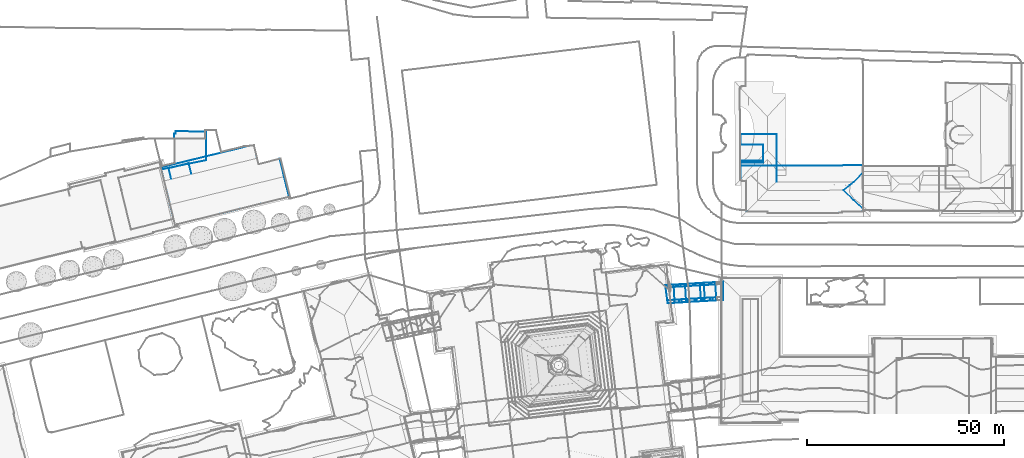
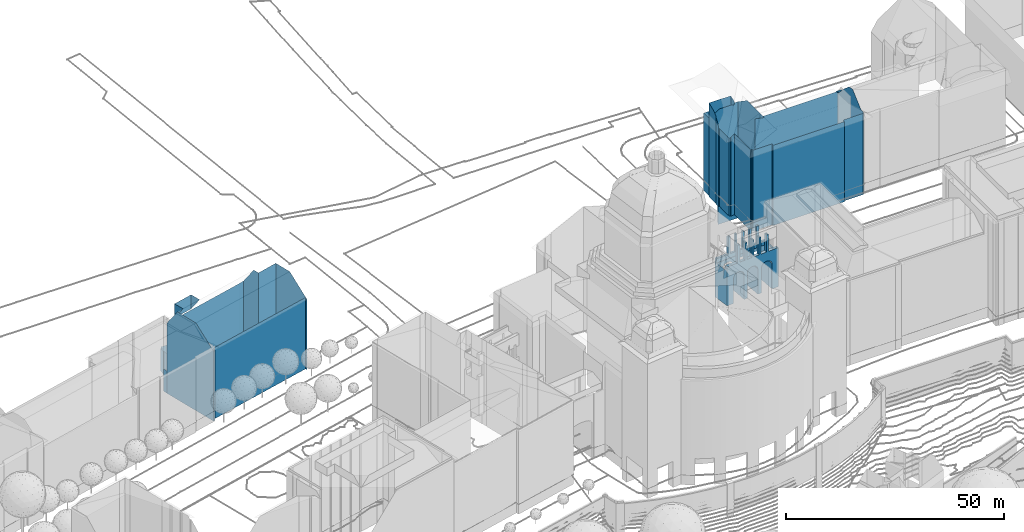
# Not in any storey, part 62 of 477: 3 walls.
"""IFC4 building model written with IfcOpenShell, lengths in metres."""

from ifc_helpers import new_model, si_unit, frame, origin_with_axes, place, context, subcontext, project, spatial, polygons, element, save


model = new_model("IFC4")

# Units and contexts
model_context = context("Model", 3, precision=1e-05, world=origin_with_axes())
body_context = subcontext(model_context, "Body", "Model", "MODEL_VIEW")
ifc_project = project(units=[si_unit("AREAUNIT", "SQUARE_METRE"), si_unit("LENGTHUNIT", "METRE")], contexts=[model_context])

# Sites, building
site_1_placement = place(None, origin_with_axes())
site_1 = spatial("IfcSite", under=ifc_project, at=site_1_placement, Name="Topoexport Site")
site_2_placement = place(site_1_placement, origin_with_axes())
site_2 = spatial("IfcSite", under=site_1, at=site_2_placement, Name="TPX_BUILDINGS")
building_1_placement = place(site_2_placement, frame((211.8297320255, 101.9383160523, 526.7541), z_axis=(0.0, 0.0, 1.0), x_axis=(1.0, 0.0, 0.0)))
building_1 = spatial("IfcBuilding", under=site_2, at=building_1_placement, Name="Building 18", CompositionType="ELEMENT")

# Wall
wall_1_placement = place(None, frame((211.8297320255, 101.9383160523, 526.7541), z_axis=(0.0, 0.0, 1.0), x_axis=(1.0, 0.0, 0.0)))
element("IfcWall", 1, at=wall_1_placement, inside=building_1, Name="Wall 25", context=body_context, shape_type="Tessellation", body=[
    polygons([(353.0720000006, 301.4774999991, 24.3019), (353.0250000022, 302.2637000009, 29.1525), (353.0720000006, 301.4774999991, 29.1525), (353.5730000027, 302.2969000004, 24.3019), (353.620000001, 301.5106999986, 29.1525), (353.5730000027, 302.2969000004, 29.1525), (358.9739999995, 301.8300999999, 24.3019), (358.9270000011, 302.6152000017, 24.3019), (358.9739999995, 301.8300999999, 29.1525), (359.506000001, 302.6493999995, 24.3019), (359.5529999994, 301.8641999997, 24.3019), (359.506000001, 302.6493999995, 29.1525), (355.0040000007, 301.5936999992, 24.3019), (354.9570000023, 302.378899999, 29.1525), (355.0040000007, 301.5936999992, 29.1525), (355.5089999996, 302.4111000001, 24.3019), (355.5560000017, 301.6259999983, 29.1525), (355.5089999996, 302.4111000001, 29.1525), (351.1050000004, 301.3603000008, 24.3019), (351.0580000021, 302.1464999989, 24.3019), (351.1050000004, 301.3603000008, 29.1525), (351.7259999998, 302.1865000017, 24.3019), (351.7730000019, 301.4004000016, 29.1525), (351.7259999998, 302.1865000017, 29.1525), (356.9470000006, 301.7089999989, 24.3019), (356.9000000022, 302.4941000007, 29.1525), (356.9470000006, 301.7089999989, 29.1525), (357.4279999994, 302.5263999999, 24.3019), (357.4750000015, 301.7402000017, 24.3019), (357.4279999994, 302.5263999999, 29.1525), (352.8320000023, 305.5126999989, 24.3019), (352.7970000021, 306.0907999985, 24.3019), (352.8320000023, 305.5126999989, 29.1525), (353.3450000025, 306.1229999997, 24.3019), (353.3800000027, 305.5458999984, 29.1525), (353.3450000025, 306.1240000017, 29.1525), (350.8650000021, 305.3955000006, 24.3019), (350.8300000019, 305.9745999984, 24.3019), (350.8650000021, 305.3955000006, 29.1525), (351.4979999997, 306.0146000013, 24.3019), (351.5329999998, 305.4345999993, 24.3019), (351.4979999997, 306.0146000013, 29.1525), (358.7340000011, 305.8641999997, 24.3019), (358.699000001, 306.4433000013, 24.3019), (358.7340000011, 305.8641999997, 29.1525), (359.2770000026, 306.4785000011, 24.3019), (359.3120000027, 305.8984000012, 24.3019), (359.2770000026, 306.4785000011, 29.1525), (356.7070000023, 305.7430999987, 24.3019), (356.6720000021, 306.3222999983, 24.3019), (356.7070000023, 305.7430999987, 29.1525), (357.200000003, 306.3535000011, 24.3019), (357.2349999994, 305.7754000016, 29.1525), (357.200000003, 306.3544999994, 29.1525), (354.7640000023, 305.6268999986, 24.3019), (354.7290000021, 306.2060000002, 29.1525), (354.7640000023, 305.6268999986, 29.1525), (355.2809999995, 306.2391999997, 24.3019), (355.3159999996, 305.6601000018, 24.3019), (355.2809999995, 306.2391999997, 29.1525), (351.0580000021, 302.1464999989, 29.1525), (348.0720000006, 301.9686999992, 23.1101), (348.0720000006, 301.9686999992, 24.3019), (353.0250000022, 302.2637000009, 24.3019), (354.9570000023, 302.378899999, 24.3019), (362.2330000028, 302.8125, 23.11), (358.9270000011, 302.6152000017, 29.1525), (356.9000000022, 302.4941000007, 24.3019), (362.2330000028, 302.8125, 24.3019), (359.5529999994, 301.8641999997, 29.1525), (362.2360000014, 302.0243999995, 23.11), (359.9860000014, 301.8876999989, 21.4602), (362.2360000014, 302.0243999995, 24.3019), (358.7550000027, 301.8154000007, 21.7082), (359.4020000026, 301.8535000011, 21.7082), (357.4750000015, 301.7402000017, 29.1525), (358.1720000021, 301.7811999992, 21.4602), (355.5560000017, 301.6259999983, 24.3019), (355.495000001, 301.6240000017, 21.7082), (360.3890000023, 301.9111000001, 21.0142), (360.5340000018, 301.9228000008, 13.366), (360.5340000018, 301.9208999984, 20.4573), (362.2360000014, 302.0243999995, 13.366), (357.768000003, 301.7578000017, 21.0142), (356.0789999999, 301.6581999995, 21.4602), (356.4820000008, 301.682599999, 21.0142), (356.6270000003, 301.6904000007, 20.4573), (356.6270000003, 301.6893999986, 13.366), (357.6240000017, 301.7490000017, 20.4573), (357.6240000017, 301.7490000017, 13.366), (353.620000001, 301.5106999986, 24.3019), (354.8480000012, 301.5859000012, 21.7082), (354.2650000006, 301.5527000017, 21.4602), (351.7730000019, 301.4004000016, 24.3019), (351.7349999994, 301.4032999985, 21.7082), (351.0879999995, 301.3652000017, 21.7082), (348.1730000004, 301.1854999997, 23.1101), (348.1730000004, 301.1854999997, 24.3019), (350.5040000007, 301.3310000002, 21.4602), (352.3200000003, 301.4375, 21.4602), (352.7239999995, 301.4609000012, 21.0143), (353.8610000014, 301.5282999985, 21.0142), (352.8670000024, 301.4697000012, 20.4573), (352.8680000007, 301.4657999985, 13.366), (353.7170000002, 301.5194999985, 20.4573), (353.7170000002, 301.5166000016, 13.366), (349.9580000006, 301.2910000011, 13.366), (348.1730000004, 301.1854999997, 13.366), (349.9570000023, 301.2998000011, 20.4573), (350.1009999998, 301.307599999, 21.0143), (362.2200000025, 306.6532999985, 24.3019), (362.2200000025, 306.6543000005, 23.11), (362.2220000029, 306.0722000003, 23.11), (362.2220000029, 306.0722000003, 24.3019), (362.2200000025, 306.6543000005, 13.366), (362.2330000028, 302.8125, 13.366), (348.0720000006, 301.9668000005, 13.366), (347.6540000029, 305.2030999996, 23.1101), (347.5789999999, 305.7793000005, 24.3019), (347.6530000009, 305.2030999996, 24.3019), (347.5789999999, 305.7802999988, 23.1101), (347.5789999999, 305.7802999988, 13.366), (359.3120000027, 305.8984000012, 29.1525), (357.2349999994, 305.7754000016, 24.3019), (355.3159999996, 305.6601000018, 29.1525), (353.3800000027, 305.5458999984, 24.3019), (351.5329999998, 305.4345999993, 29.1525), (350.8300000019, 305.9745999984, 29.1525), (350.8139999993, 305.9726000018, 21.7082), (350.2300000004, 305.9375, 21.4602), (349.8269999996, 305.9131000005, 21.0143), (351.4600000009, 306.0117000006, 21.7082), (352.7970000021, 306.0918000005, 29.1525), (353.5850000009, 306.1387000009, 21.0143), (355.2200000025, 306.2353000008, 21.7082), (354.7290000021, 306.2060000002, 24.3019), (354.5720000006, 306.1972000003, 21.7082), (353.9890000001, 306.1620999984, 21.4602), (352.0439999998, 306.0469000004, 21.4602), (349.6830000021, 305.9061999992, 13.366), (349.6830000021, 305.9043000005, 20.4573), (352.4480000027, 306.0703000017, 21.0143), (352.5920000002, 306.0780999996, 20.4573), (353.4409999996, 306.1308000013, 13.366), (353.4409999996, 306.129900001, 20.4573), (356.6720000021, 306.3222999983, 29.1525), (355.8040000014, 306.2705000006, 21.4602), (357.4920000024, 306.371100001, 21.0143), (358.699000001, 306.4433000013, 29.1525), (357.8960000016, 306.3955000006, 21.4602), (359.1270000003, 306.4697000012, 21.7082), (358.4790000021, 306.4305999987, 21.7082), (360.1140000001, 306.5282999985, 21.0143), (356.2060000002, 306.2939000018, 21.0143), (356.3509999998, 306.3037, 20.4573), (356.3509999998, 306.3046999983, 13.366), (357.3480000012, 306.3632999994, 20.4573), (359.7110000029, 306.504900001, 21.4602), (360.2589999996, 306.5370999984, 20.4573), (360.2589999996, 306.5370999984, 13.366), (352.5920000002, 306.0791000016, 13.366), (357.3480000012, 306.3632999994, 13.366)], [[[3, 2, 1]], [[6, 5, 4]], [[9, 8, 7]], [[12, 11, 10]], [[15, 14, 13]], [[18, 17, 16]], [[21, 20, 19]], [[24, 23, 22]], [[27, 26, 25]], [[30, 29, 28]], [[33, 32, 31]], [[36, 35, 34]], [[39, 38, 37]], [[42, 41, 40]], [[45, 44, 43]], [[48, 47, 46]], [[51, 50, 49]], [[54, 53, 52]], [[57, 56, 55]], [[60, 59, 58]], [[24, 22, 61]], [[6, 4, 2]], [[62, 20, 22]], [[20, 62, 63]], [[62, 22, 64]], [[64, 4, 62]], [[4, 65, 62]], [[62, 65, 66]], [[18, 65, 14]], [[30, 28, 26]], [[12, 10, 67]], [[68, 28, 66]], [[28, 8, 66]], [[10, 69, 66]], [[10, 66, 8]], [[68, 66, 16]], [[9, 7, 70]], [[72, 71, 11]], [[11, 71, 73]], [[75, 7, 74]], [[7, 75, 11]], [[72, 11, 75]], [[27, 29, 76]], [[77, 74, 29]], [[74, 7, 29]], [[77, 29, 25]], [[79, 25, 78]], [[13, 79, 78]], [[72, 80, 71]], [[83, 82, 81]], [[82, 83, 71]], [[77, 85, 84]], [[80, 82, 71]], [[87, 84, 86]], [[85, 77, 25]], [[90, 89, 88]], [[87, 88, 89]], [[84, 87, 89]], [[86, 84, 85]], [[79, 85, 25]], [[78, 17, 13]], [[3, 1, 5]], [[92, 13, 91]], [[92, 91, 93]], [[1, 93, 91]], [[94, 23, 19]], [[96, 95, 19]], [[19, 95, 94]], [[98, 97, 19]], [[99, 19, 97]], [[94, 95, 1]], [[100, 1, 95]], [[102, 100, 101]], [[100, 102, 93]], [[102, 101, 103]], [[106, 105, 104]], [[103, 104, 105]], [[105, 102, 103]], [[100, 93, 1]], [[99, 96, 19]], [[109, 108, 107]], [[108, 109, 97]], [[110, 97, 109]], [[99, 97, 110]], [[113, 112, 111]], [[113, 111, 114]], [[115, 112, 113]], [[66, 115, 113]], [[66, 73, 71]], [[116, 66, 83]], [[98, 63, 62]], [[118, 117, 62]], [[98, 62, 97]], [[62, 108, 97]], [[108, 62, 117]], [[120, 119, 118]], [[118, 119, 121]], [[117, 121, 122]], [[121, 117, 118]], [[45, 43, 123]], [[51, 124, 53]], [[113, 47, 43]], [[47, 113, 114]], [[113, 43, 124]], [[124, 49, 113]], [[49, 59, 113]], [[113, 59, 55]], [[59, 125, 55]], [[33, 126, 35]], [[39, 41, 127]], [[126, 31, 118]], [[31, 41, 118]], [[37, 120, 118]], [[37, 118, 41]], [[126, 118, 55]], [[55, 118, 113]], [[42, 40, 128]], [[130, 38, 129]], [[119, 38, 131]], [[129, 38, 132]], [[131, 121, 119]], [[40, 132, 38]], [[36, 34, 133]], [[134, 32, 34]], [[137, 136, 135]], [[34, 136, 138]], [[139, 40, 32]], [[56, 60, 136]], [[136, 137, 138]], [[132, 40, 139]], [[122, 141, 140]], [[122, 121, 141]], [[121, 131, 141]], [[130, 131, 38]], [[32, 134, 142]], [[142, 139, 32]], [[142, 134, 143]], [[145, 144, 143]], [[143, 134, 145]], [[134, 34, 138]], [[54, 52, 146]], [[147, 135, 58]], [[135, 136, 58]], [[50, 147, 58]], [[52, 148, 50]], [[44, 149, 46]], [[52, 44, 150]], [[46, 151, 44]], [[44, 151, 152]], [[46, 111, 153]], [[112, 153, 111]], [[44, 152, 150]], [[50, 154, 147]], [[50, 148, 154]], [[154, 148, 155]], [[157, 156, 155]], [[155, 148, 157]], [[148, 52, 150]], [[158, 151, 46]], [[153, 112, 159]], [[115, 160, 159]], [[112, 115, 159]], [[158, 46, 153]], [[145, 105, 144]], [[156, 87, 155]], [[90, 157, 89]], [[82, 159, 81]], [[141, 109, 140]], [[161, 103, 143]], [[2, 64, 1]], [[5, 91, 4]], [[67, 8, 9]], [[70, 11, 12]], [[14, 65, 13]], [[17, 78, 16]], [[61, 20, 21]], [[23, 94, 22]], [[26, 68, 25]], [[76, 29, 30]], [[133, 32, 33]], [[35, 126, 34]], [[128, 38, 39]], [[127, 41, 42]], [[149, 44, 45]], [[123, 47, 48]], [[146, 50, 51]], [[53, 124, 52]], [[56, 136, 55]], [[125, 59, 60]], [[22, 20, 61]], [[4, 64, 2]], [[65, 16, 66]], [[16, 65, 18]], [[28, 68, 26]], [[10, 8, 67]], [[7, 11, 70]], [[25, 29, 27]], [[92, 79, 13]], [[17, 15, 13]], [[1, 91, 5]], [[23, 21, 19]], [[116, 115, 66]], [[69, 73, 66]], [[66, 71, 83]], [[43, 47, 123]], [[49, 124, 51]], [[125, 57, 55]], [[31, 126, 33]], [[37, 41, 39]], [[40, 38, 128]], [[34, 32, 133]], [[60, 58, 136]], [[144, 161, 143]], [[52, 50, 146]], [[149, 48, 46]], [[162, 156, 157]], [[105, 106, 144]], [[88, 87, 156]], [[162, 157, 90]], [[159, 160, 81]], [[109, 107, 140]], [[104, 103, 161]]]),
])

# Building
building_2_placement = place(site_2_placement, frame((578.3317320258, 440.0389160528, 564.4028), z_axis=(0.0, 0.0, 1.0), x_axis=(1.0, 0.0, 0.0)))
building_2 = spatial("IfcBuilding", under=site_2, at=building_2_placement, Name="Building 190", CompositionType="ELEMENT")

# Wall
wall_2_placement = place(None, frame((578.3317320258, 440.0389160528, 564.4028), z_axis=(0.0, 0.0, 1.0), x_axis=(1.0, 0.0, 0.0)))
element("IfcWall", 2, at=wall_2_placement, inside=building_2, Name="Wall 0", context=body_context, shape_type="Tessellation", body=[
    polygons([(9.313000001, -1.9541000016, -24.3907), (0.2300000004, -1.9776000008, -24.3907), (0.2300000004, -1.9776000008, -24.5197), (31.2880000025, -1.9004000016, -2.6996), (31.2880000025, -1.9004000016, -24.5195), (1.5350000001, -5.8672000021, -1.8078), (1.5350000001, -5.8672000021, -24.5197), (0.5650000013, -5.8819000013, -24.5197), (0.5650000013, -5.8819000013, -2.4758), (1.0380000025, -5.875, -2.1498), (1.5419999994, -11.4717000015, -1.8118), (1.5370000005, -7.7402999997, -1.8088), (1.5439999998, -13.3409000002, -24.5197), (1.6350999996, -13.3379000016, -24.5197), (1.5441000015, -13.3408000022, -1.8138), (1.6350000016, -13.3379000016, -1.7509), (1.7470000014, -13.4941999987, -24.5197), (0.3920000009, -5.8007999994, -2.5948), (0.3920000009, -5.8007999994, -24.5197), (0.2750000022, -5.7393000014, -24.5197), (0.5659999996, -5.8330000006, -24.5197), (0.5659999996, -5.8330000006, -2.4748), (31.1469999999, -13.6084000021, -24.5195), (31.1469999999, -13.5439999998, -1.7407), (31.1469999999, -13.5439999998, -24.5195), (31.3220000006, -13.5390999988, -13.1286), (31.3220000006, -13.5390999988, -18.8231), (31.3220000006, -13.5390999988, -24.5195), (1.9020000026, -13.5956999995, -24.5197), (1.813000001, -13.5371000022, -16.3465), (1.9020000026, -13.5956999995, -1.7269), (4.0240000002, -13.6856000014, -1.7919), (7.0190000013, -13.6787, -1.7929), (7.0190000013, -13.6787, -24.5197), (1.9020000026, -13.6904999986, -1.7919), (1.9020000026, -13.6904999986, -24.5197), (7.0540000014, -14.0254000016, -2.0318), (25.9930000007, -13.9677999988, -24.5197), (21.2580000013, -13.9825000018, -2.0268), (25.9930000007, -13.9677999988, -2.0249), (22.0890000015, -13.9805000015, -24.5197), (7.0540000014, -14.0254000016, -24.5197), (25.9990000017, -13.6114000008, -1.7789), (25.9990000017, -13.6114000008, -24.5197), (31.2930000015, -3.6904999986, -24.6435), (28.8880000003, -6.1064999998, -24.5195), (28.8890000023, -6.1055000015, -24.6435), (31.2930000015, -3.6904999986, -24.5195), (31.2930000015, -3.6904999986, -1.4657), (28.8890000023, -6.1055000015, 0.8711), (28.8890000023, -6.1055000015, 0.1951), (31.2930000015, -3.6904999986, -1.1777), (0.2170000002, 3.2938999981, -24.3907), (0.2100000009, 5.9569999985, -2.6997), (0.2170000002, 3.2938999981, -2.6997), (0.2100000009, 5.9569999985, -24.3907), (9.2939999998, 5.9794999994, -2.6997), (0.2390000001, -5.7080000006, -13.6227), (0.2390000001, -5.7080000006, -24.5197), (31.3210000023, -13.1493999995, -24.6435), (28.9000000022, -10.7422000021, -24.5195), (31.3210000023, -13.1493999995, -24.5195), (28.9000000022, -10.7422000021, -24.6435), (26.3839999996, -8.1865999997, -24.6437), (26.3839999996, -8.1865999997, -24.5197), (0.0, 0.0223999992, -6.1094), (0.0329999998, 0.0223999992, 0.019), (0.0, 0.0223999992, 0.019), (0.0, 0.0223999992, -12.2368), (0.0, 0.0225000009, -24.4917), (0.0980000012, 0.0234000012, -18.3642), (0.0980000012, 0.0234000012, -6.1084), (0.0980000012, 0.0234000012, -24.4917), (0.0020000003, -0.6777999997, -28.6853), (5.8859999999, -0.6631000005, -24.4917), (0.0020000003, -0.6777999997, -24.4917), (0.0879999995, 3.2938999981, -24.4917), (0.0879999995, 3.2938999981, 1.7858), (2.8819999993, 3.3007999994, -0.8639), (5.876000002, 3.307599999, -24.4917), (5.876000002, 3.307599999, -0.8639), (5.876000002, 3.307599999, 1.7858), (0.2300000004, -1.9776000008, -2.6977), (0.2390000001, -5.7080000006, -2.6998), (0.2280000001, -1.2353999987, -24.3907), (0.2280000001, -1.2353999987, -2.6967), (27.8539000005, -6.9649000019, 1.5997), (27.8440000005, -6.9737000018, 1.6008), (9.3040000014, 1.7811999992, -24.3907), (9.2939999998, 5.9794999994, -24.3907), (9.313000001, -1.9541000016, -2.6998), (9.3040000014, 1.7811999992, 0.195), (9.324000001, -6.1533000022, 0.195), (0.0040000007, -1.0947999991, -24.4917), (0.0040000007, -1.0947999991, -29.5932), (0.0, 0.0, 0.0), (0.0020000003, -0.6777999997, -0.8389), (0.0040000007, -1.0947999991, -1.7468), (0.0950000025, 0.9131000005, -24.4917), (0.0920000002, 2.0243999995, -24.4917), (0.0920000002, 2.0243999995, 1.3379), (0.0950000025, 0.9131000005, 0.7349), (0.0980000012, 0.0234000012, 0.019), (5.8790000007, 2.0390000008, 1.3379), (5.8800000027, 1.7723999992, 0.195), (5.881000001, 1.4510999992, 1.0189), (5.887000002, -1.2217000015, -24.3907), (5.876000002, 3.307599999, -24.3907), (5.887000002, -1.0811000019, -24.4917), (5.8859999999, -0.6631000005, -28.6853), (5.887000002, -1.0811000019, -29.5952), (31.3060000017, -8.0782000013, -24.6435), (31.3220000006, -13.5390999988, -7.4332), (31.3029999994, -6.9571000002, 1.6), (31.319000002, -12.4101999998, -1.4687), (31.3080000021, -8.6308999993, 1.9179), (31.3220000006, -13.5390999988, -1.7377), (31.3210000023, -13.1493999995, -1.4687), (0.0040000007, -1.2364000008, -2.6947), (0.0040000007, -1.2364000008, -24.4917), (1.7631999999, -13.5036999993, -1.6629), (1.7474000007, -13.4930999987, -1.6739), (5.887000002, -1.2217000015, -24.4917), (0.2750000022, -5.7393000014, -2.6748), (31.1469999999, -13.6084000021, -1.7847)], [[[3, 2, 1]], [[5, 1, 4]], [[1, 5, 3]], [[8, 7, 6]], [[10, 9, 8]], [[12, 7, 11]], [[6, 7, 12]], [[11, 7, 13]], [[16, 15, 14]], [[15, 13, 14]], [[16, 14, 17]], [[20, 19, 18]], [[22, 18, 21]], [[25, 24, 23]], [[27, 26, 24]], [[27, 24, 28]], [[31, 30, 29]], [[29, 30, 17]], [[34, 33, 32]], [[36, 32, 35]], [[33, 34, 37]], [[40, 39, 38]], [[39, 37, 38]], [[41, 38, 37]], [[37, 42, 41]], [[40, 38, 43]], [[43, 38, 44]], [[47, 46, 45]], [[48, 45, 46]], [[51, 50, 49]], [[52, 49, 50]], [[55, 54, 53]], [[54, 57, 56]], [[59, 20, 58]], [[22, 21, 9]], [[9, 21, 8]], [[35, 31, 36]], [[36, 31, 29]], [[62, 61, 60]], [[60, 61, 63]], [[63, 65, 64]], [[65, 63, 61]], [[68, 67, 66]], [[69, 66, 67]], [[70, 69, 67]], [[67, 72, 71]], [[67, 73, 70]], [[76, 75, 74]], [[78, 55, 77]], [[55, 78, 79]], [[77, 53, 80]], [[82, 81, 79]], [[82, 79, 78]], [[58, 84, 83]], [[59, 58, 2]], [[86, 85, 83]], [[2, 3, 59]], [[83, 2, 58]], [[88, 87, 51]], [[50, 51, 87]], [[64, 65, 46]], [[46, 47, 64]], [[89, 57, 1]], [[57, 89, 90]], [[57, 92, 91]], [[93, 91, 92]], [[57, 91, 1]], [[74, 94, 76]], [[76, 94, 69]], [[70, 76, 69]], [[94, 74, 95]], [[97, 96, 68]], [[97, 68, 66]], [[69, 98, 66]], [[66, 98, 97]], [[94, 98, 69]], [[73, 71, 99]], [[100, 99, 71]], [[77, 100, 71]], [[71, 72, 77]], [[72, 102, 101]], [[72, 101, 78]], [[72, 103, 102]], [[72, 78, 77]], [[82, 104, 81]], [[81, 104, 105]], [[105, 104, 106]], [[107, 75, 80]], [[80, 108, 107]], [[75, 107, 109]], [[110, 75, 109]], [[109, 111, 110]], [[112, 48, 27]], [[5, 26, 48]], [[45, 48, 112]], [[62, 60, 112]], [[27, 28, 62]], [[112, 27, 62]], [[113, 5, 4]], [[49, 52, 114]], [[116, 115, 49]], [[116, 49, 114]], [[115, 113, 4]], [[48, 26, 27]], [[115, 117, 113]], [[26, 5, 113]], [[117, 115, 118]], [[49, 115, 4]], [[98, 120, 119]], [[98, 94, 120]], [[109, 95, 111]], [[94, 95, 109]], [[122, 17, 121]], [[123, 107, 85]], [[85, 119, 120]], [[119, 85, 86]], [[85, 120, 123]], [[109, 107, 123]], [[1, 91, 4]], [[10, 8, 6]], [[13, 15, 11]], [[18, 124, 20]], [[18, 19, 21]], [[125, 43, 44]], [[23, 125, 44]], [[125, 23, 24]], [[117, 24, 113]], [[26, 113, 24]], [[24, 25, 28]], [[31, 121, 30]], [[121, 17, 30]], [[34, 32, 36]], [[42, 37, 34]], [[54, 56, 53]], [[57, 90, 56]], [[122, 16, 17]], [[84, 20, 124]], [[20, 84, 58]], [[67, 71, 73]], [[103, 72, 67]], [[75, 110, 74]], [[55, 53, 77]], [[53, 108, 80]], [[85, 2, 83]]]),
])

# Building
building_3_placement = place(site_2_placement, frame((431.242732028, 438.998816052, 539.6453), z_axis=(0.0, 0.0, 1.0), x_axis=(1.0, 0.0, 0.0)))
building_3 = spatial("IfcBuilding", under=site_2, at=building_3_placement, Name="Building 209", CompositionType="ELEMENT")

# Wall
wall_3_placement = place(None, frame((431.242732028, 438.998816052, 539.6453), z_axis=(0.0, 0.0, 1.0), x_axis=(1.0, 0.0, 0.0)))
element("IfcWall", 3, at=wall_3_placement, inside=building_3, Name="Wall 0", context=body_context, shape_type="Tessellation", body=[
    polygons([(2.068, -1.5975999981, 20.689), (2.068, -1.5975999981, 24.6626), (2.7369999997, -4.3387999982, 24.6876), (7.1779999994, -0.3495999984, 20.69), (7.8469999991, -3.0887999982, 24.6876), (7.1779999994, -0.3495999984, 24.6626), (24.9079999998, -0.5839999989, 0.132), (30.2819999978, 0.8027999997, 24.7096), (24.9079999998, -0.5839999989, 24.7096), (4.3189999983, -16.2899999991, 0.132), (4.2009999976, -15.8172999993, 20.153), (4.2009999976, -15.8172999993, 0.132), (18.3899999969, -12.3465999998, 20.153), (32.5539999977, -8.8827999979, 20.154), (32.5539999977, -8.8827999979, 0.1319), (32.686999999, -9.3535000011, 19.7351), (32.7599999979, -9.3348999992, 0.1319), (32.686999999, -9.3535000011, 0.1319), (32.7599999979, -9.3348999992, 19.7351), (3.8310000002, -16.4090999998, 19.7351), (4.3189999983, -16.2899999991, 19.7351), (3.8310000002, -16.4090999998, 0.132), (22.436999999, 4.0762000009, 0.132), (23.7479999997, 4.2061000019, 0.132), (22.436999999, 4.0762000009, 19.7351), (0.1199999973, -1.3817999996, 0.132), (0.2850000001, -1.3418000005, 6.2254), (0.1199999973, -1.3817999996, 19.7351), (11.5669999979, 1.4180000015, 6.2254), (0.2850000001, -1.3418000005, 0.132), (11.5669999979, 1.4180000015, 0.132), (11.2989999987, 8.0850000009, 0.0), (11.555999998, 8.0811000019, 6.2254), (11.2989999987, 8.0850000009, 6.2254), (11.2969999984, 7.629900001, 0.0), (11.2969999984, 7.629900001, 6.2254), (3.862999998, 7.8575000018, 0.0), (3.862999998, 7.8575000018, 6.2254), (3.8429999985, 7.2149000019, 0.0), (3.8429999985, 7.2149000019, 6.2254), (3.443, 7.2265999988, 0.0), (3.443, 7.2265999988, 6.2254), (3.3990000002, 5.9052999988, 0.0), (3.3990000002, 5.9052999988, 6.2254), (3.6289999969, 5.9063000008, 0.0), (3.6289999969, 5.9063000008, 6.2254), (3.5729999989, -0.254900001, 0.0), (3.5729999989, -0.254900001, 6.2254), (0.4780000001, -1.0146000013, 0.0), (0.4780000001, -1.0146000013, 6.2254), (0.2029999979, 0.0439999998, 0.0), (0.2029999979, 0.0439999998, 6.2254), (0.0, 0.0, 0.0), (0.0, 0.0, 6.2254), (0.3969999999, -1.8662, 0.132), (0.3969999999, -1.8662, 0.0), (11.5689999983, 0.4463, 0.0), (11.5689999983, 0.4463, 0.132), (11.555999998, 8.0811000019, 0.0), (31.3829999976, -3.6981999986, 0.1319), (31.3829999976, -3.6981999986, 24.7096), (24.5299999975, 0.9746000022, 0.132), (23.7479999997, 4.2061000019, 19.9981), (24.5299999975, 0.9746000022, 24.7096), (2.4399999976, -10.7762999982, 24.7096), (0.9609999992, -4.7890000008, 24.7096), (0.9609999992, -4.7890000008, 0.132), (2.4399999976, -10.7762999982, 0.132), (30.2819999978, 0.8027999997, 0.132)], [[[3, 2, 1]], [[6, 5, 4]], [[2, 4, 1]], [[9, 8, 7]], [[12, 11, 10]], [[15, 14, 13]], [[12, 15, 13]], [[13, 11, 12]], [[16, 14, 15]], [[19, 18, 17]], [[18, 19, 16]], [[22, 21, 20]], [[22, 10, 21]], [[25, 24, 23]], [[28, 27, 26]], [[27, 28, 29]], [[30, 26, 27]], [[29, 25, 23]], [[25, 29, 28]], [[23, 31, 29]], [[34, 33, 32]], [[36, 34, 35]], [[38, 36, 37]], [[40, 38, 39]], [[42, 40, 41]], [[44, 42, 43]], [[46, 44, 45]], [[48, 46, 47]], [[50, 48, 49]], [[52, 50, 51]], [[54, 52, 53]], [[56, 55, 30]], [[30, 54, 53]], [[54, 30, 27]], [[30, 53, 56]], [[58, 55, 57]], [[59, 33, 31]], [[31, 33, 29]], [[31, 58, 57]], [[31, 57, 59]], [[61, 60, 8]], [[60, 19, 17]], [[19, 60, 61]], [[63, 62, 24]], [[62, 63, 64]], [[9, 7, 64]], [[66, 28, 65]], [[20, 65, 28]], [[28, 67, 20]], [[26, 67, 28]], [[22, 20, 68]], [[68, 20, 67]], [[6, 4, 2]], [[8, 69, 7]], [[21, 10, 11]], [[16, 15, 18]], [[63, 24, 25]], [[33, 59, 32]], [[34, 32, 35]], [[36, 35, 37]], [[38, 37, 39]], [[40, 39, 41]], [[42, 41, 43]], [[44, 43, 45]], [[46, 45, 47]], [[48, 47, 49]], [[50, 49, 51]], [[52, 51, 53]], [[55, 56, 57]], [[60, 69, 8]], [[7, 62, 64]]]),
])

save(model, "model.ifc")
